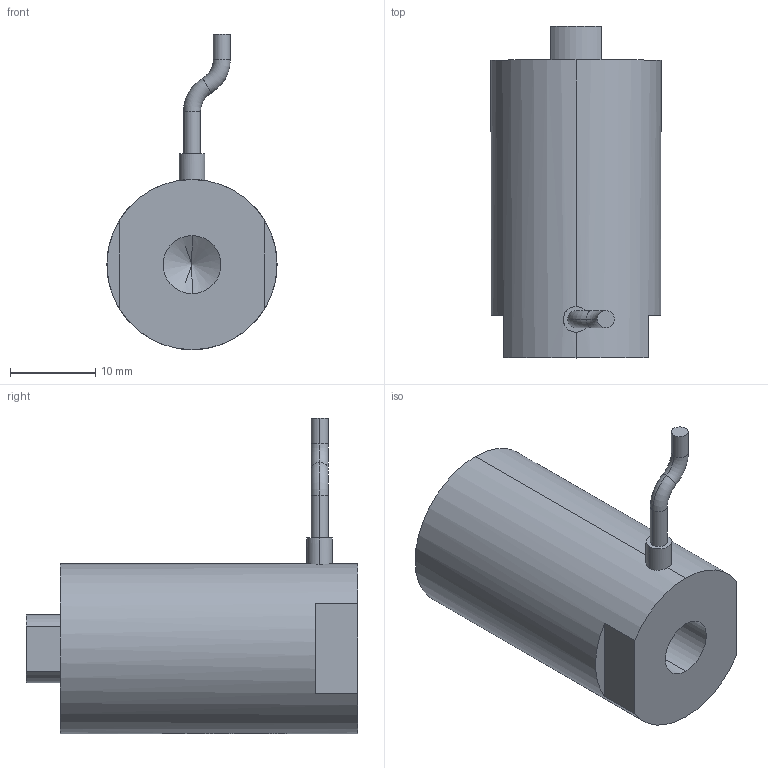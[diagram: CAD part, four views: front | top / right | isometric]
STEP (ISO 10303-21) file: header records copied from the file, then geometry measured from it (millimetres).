
FILE_DESCRIPTION (( 'STEP AP203' ), '1' );
FILE_NAME ('ﾄﾚﾂﾝﾎﾆﾊｽ20VS20.STEP', '2021-07-08T05:22:40', ( 'ﾎ｢ﾈ橆ﾃｻｧ' ), ( 'ﾎ｢ﾈ晥ｫﾋｾ' ), 'SwSTEP 2.0', 'SolidWorks 2016', '' );
FILE_SCHEMA (( 'CONFIG_CONTROL_DESIGN' ));
Products named in the file (1): 囀蹟恇宒20VS20
Bounding box: 20 x 39 x 37.06 mm (x, y, z)
Volume: 10606.4 mm3; surface area: 3383.3 mm2
Topology: 1 solids, 1 shells, 932 faces, 2525 edges, 1676 vertices
Faces by surface type: bspline 515, plane 303, cylinder 106, torus 4, cone 4
Entity records: 44776 total; most frequent: CARTESIAN_POINT 25901, ORIENTED_EDGE 5034, EDGE_CURVE 2517, DIRECTION 1917, B_SPLINE_CURVE_WITH_KNOTS 1702, VERTEX_POINT 1674, EDGE_LOOP 1019, ADVANCED_FACE 932
